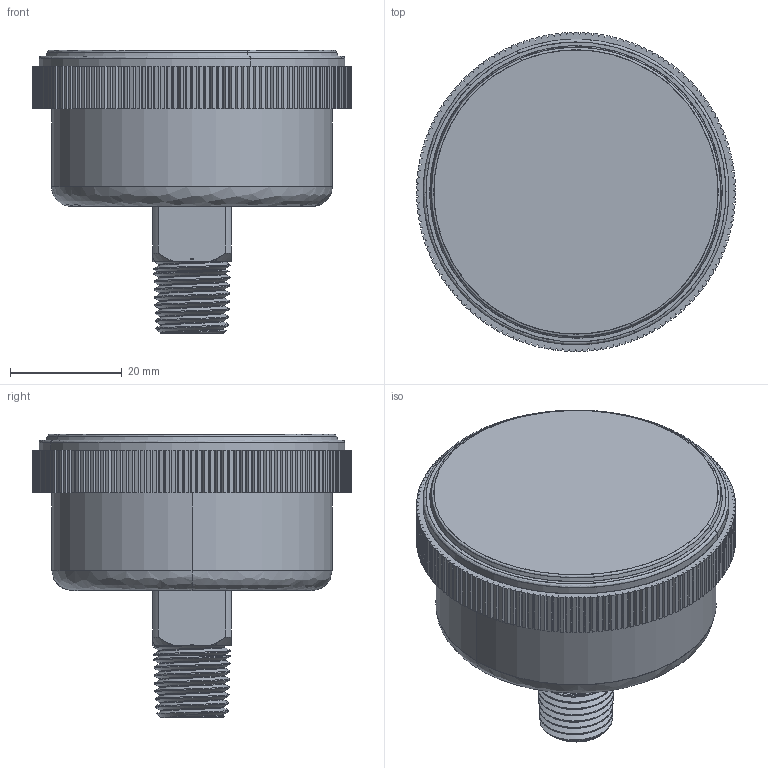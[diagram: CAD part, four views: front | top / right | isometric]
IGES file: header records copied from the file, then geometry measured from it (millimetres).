
Start section: SolidWorks IGES file using analytic representation for surfaces
Global section: file name: C:\Users\hmei\OneDrive - Illinois Tool Works, Inc\Documents\#Project\Gauge\HAI'S PRESSURE GAUGE\C20-NT.IGS; native system: SolidWorks 2023; preprocessor: SolidWorks 2023; author: HMei; date: 250304.142456; units: millimetre
Bounding box: 57.2 x 57.2 x 50.8 mm (x, y, z)
Surface area: 24042.7 mm2 (no closed solid volume)
Topology: 0 solids, 0 shells, 619 faces, 4917 edges, 4917 vertices
Faces by surface type: bspline 364, revolution 255
